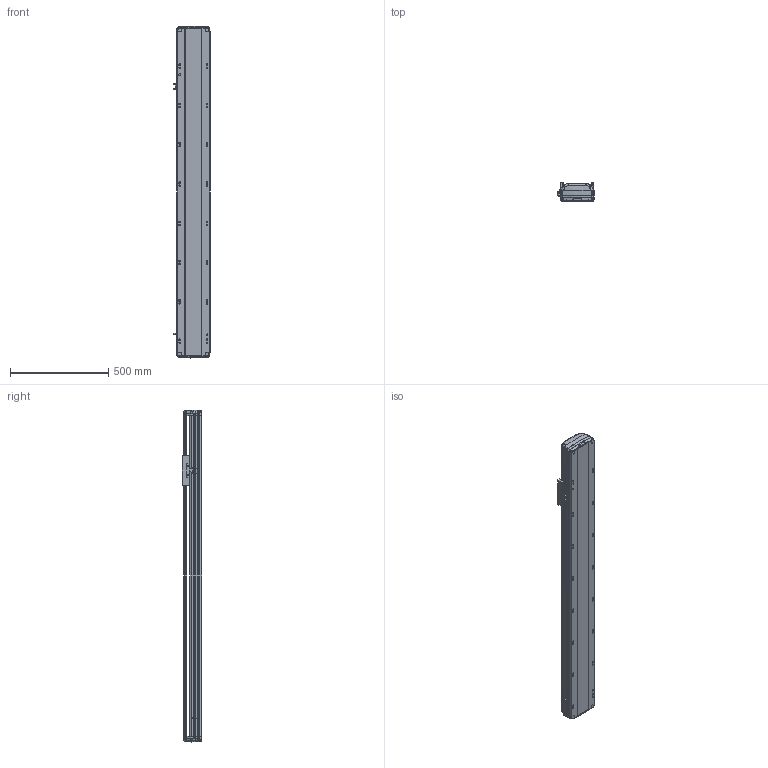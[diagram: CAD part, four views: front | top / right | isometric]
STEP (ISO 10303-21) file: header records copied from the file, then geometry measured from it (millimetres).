
FILE_DESCRIPTION (( 'STEP AP214' ), '1' );
FILE_NAME ('RTH17-XX-1250-B-M40B-C4.STEP', '2025-10-24T09:21:01', ( '' ), ( '' ), 'SwSTEP 2.0', 'SolidWorks 2018', '' );
FILE_SCHEMA (( 'AUTOMOTIVE_DESIGN' ));
Length unit declared in the file: millimetre
Products named in the file (7): N_RTH17-GY-001P^RTH17-XX-XX-B-M40B-C4（方程式）; N_RTH17-M-007B上盖^RTH17-XX-XX-B-M40B-C4（方程式）; RTH17-XX-1250-B-M40B-C4; N_RTH17-E-004丝杆螺母连接座^RTH17-XX-XX-B-M40B-C4（方程式）; N_RTH17-M-011B底座^RTH17-XX-XX-B-M40B-C4（方程式）; N_OMRON EE-SX672 換覜ん^RTH17-XX-XX-B-M40B-C4ㄗ源最宒ㄘ; N_RTH-L-012 感应片(外置)^RTH17-XX-XX-B-M40B-C4（方程式）
Assembly tree (9 placements, depth 2):
  RTH17-XX-1250-B-M40B-C4
    N_RTH17-M-011B底座^RTH17-XX-XX-B-M40B-C4（方程式）
    N_RTH17-M-007B上盖^RTH17-XX-XX-B-M40B-C4（方程式）
    N_OMRON EE-SX672 換覜ん^RTH17-XX-XX-B-M40B-C4ㄗ源最宒ㄘ  x3
    N_RTH-L-012 感应片(外置)^RTH17-XX-XX-B-M40B-C4（方程式）
    N_RTH17-E-004丝杆螺母连接座^RTH17-XX-XX-B-M40B-C4（方程式）
    N_RTH17-GY-001P^RTH17-XX-XX-B-M40B-C4（方程式）  x2
Bounding box: 183.5 x 97 x 1689.88 mm (x, y, z)
Volume: 12205897 mm3; surface area: 1642984 mm2
Topology: 7 solids, 11 shells, 1768 faces, 4988 edges, 3242 vertices
Faces by surface type: plane 815, cylinder 487, bspline 420, cone 28, torus 18
Entity records: 42582 total; most frequent: CARTESIAN_POINT 17551, ORIENTED_EDGE 5480, DIRECTION 4336, EDGE_CURVE 2744, VERTEX_POINT 1796, LINE 1472, VECTOR 1472, AXIS2_PLACEMENT_3D 1432
